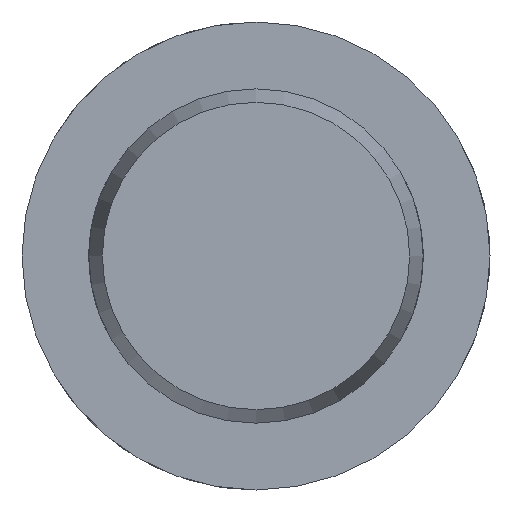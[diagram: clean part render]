
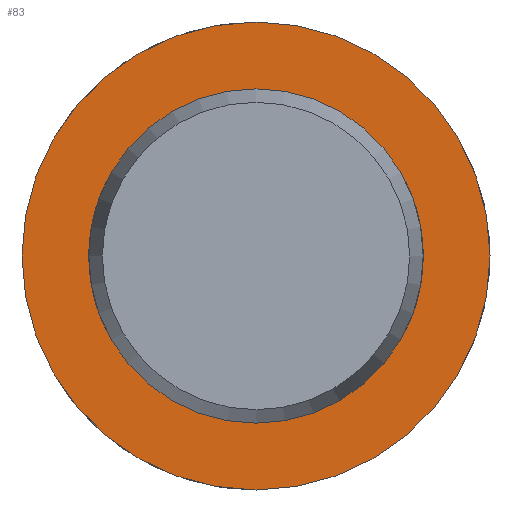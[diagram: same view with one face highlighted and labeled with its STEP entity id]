
A CAD part, left-side view. The second image highlights one B-rep face of the part: STEP entity #83.
In plain terms, the highlighted planar face has unit normal (-1, 0, 0).
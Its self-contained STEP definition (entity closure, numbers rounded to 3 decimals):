
#83 = ADVANCED_FACE( '', ( #128, #129 ), #130, .F. );
#128 = FACE_OUTER_BOUND( '', #204, .T. );
#129 = FACE_BOUND( '', #205, .T. );
#130 = PLANE( '', #206 );
#204 = EDGE_LOOP( '', ( #318 ) );
#205 = EDGE_LOOP( '', ( #319 ) );
#206 = AXIS2_PLACEMENT_3D( '', #320, #321, #322 );
#318 = ORIENTED_EDGE( '', *, *, #481, .F. );
#319 = ORIENTED_EDGE( '', *, *, #471, .T. );
#320 = CARTESIAN_POINT( '', ( 99.6, 5., 0. ) );
#321 = DIRECTION( '', ( 1., 0., 0. ) );
#322 = DIRECTION( '', ( 0., 0., -1. ) );
#471 = EDGE_CURVE( '', #541, #541, #542, .T. );
#481 = EDGE_CURVE( '', #559, #559, #560, .T. );
#541 = VERTEX_POINT( '', #726 );
#542 = CIRCLE( '', #727, 5. );
#559 = VERTEX_POINT( '', #881 );
#560 = CIRCLE( '', #882, 7. );
#726 = CARTESIAN_POINT( '', ( 99.6, 0., -5. ) );
#727 = AXIS2_PLACEMENT_3D( '', #943, #944, #945 );
#881 = CARTESIAN_POINT( '', ( 99.6, 0., -7. ) );
#882 = AXIS2_PLACEMENT_3D( '', #964, #965, #966 );
#943 = CARTESIAN_POINT( '', ( 99.6, 0., 0. ) );
#944 = DIRECTION( '', ( 1., 0., 0. ) );
#945 = DIRECTION( '', ( 0., 0., -1. ) );
#964 = CARTESIAN_POINT( '', ( 99.6, 0., 0. ) );
#965 = DIRECTION( '', ( 1., 0., 0. ) );
#966 = DIRECTION( '', ( 0., 0., -1. ) );
